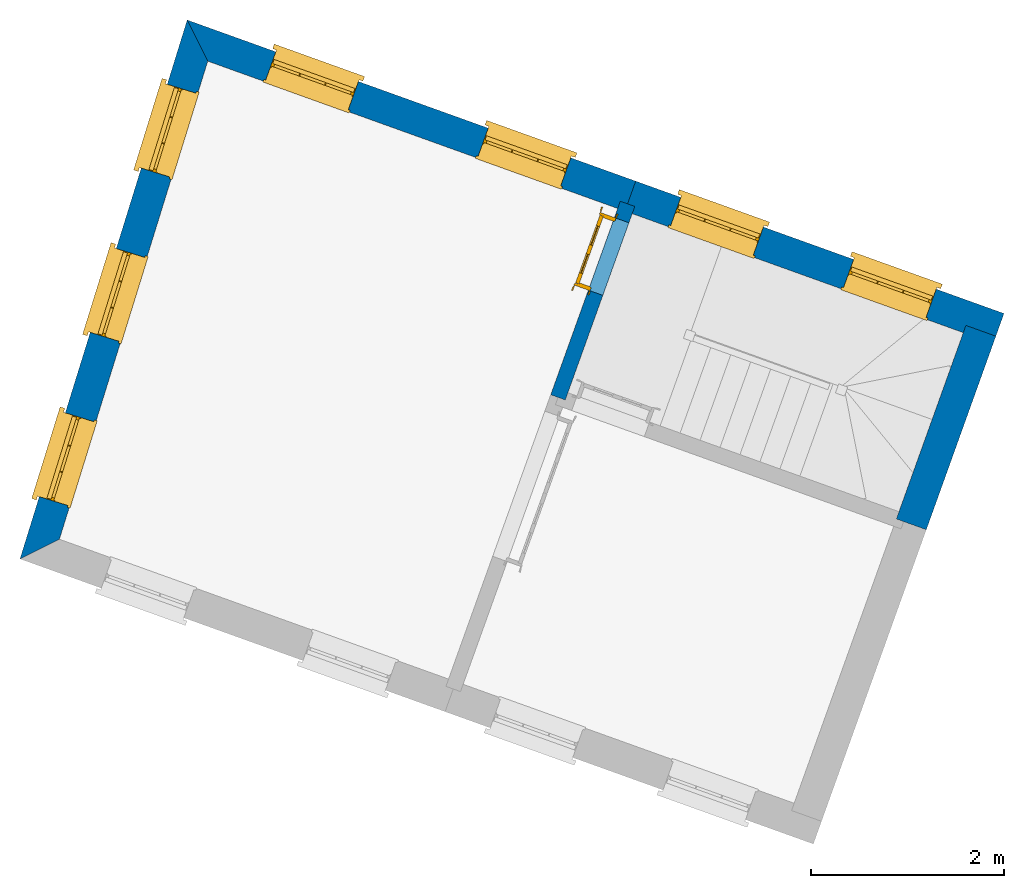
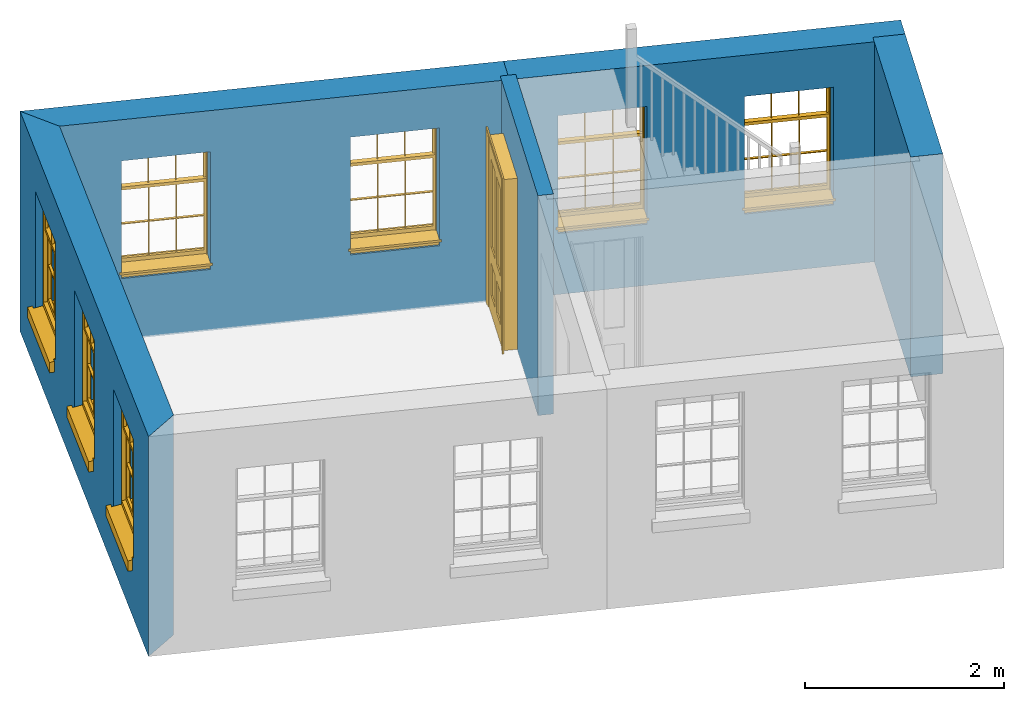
# One storey, part 3 of 4: 7 windows, 5 walls, 1 door, 8 openings.
"""IFC4 building model written with IfcOpenShell, lengths in metres."""

from ifc_helpers import new_model, si_unit, frame, origin, origin_with_axes, place, context, subcontext, project, spatial, polyline, outline, extrude, faceted_brep, source, transform, mapped, material, layer, layer_set, layer_usage, type_object, type_shapes, element, fill, save


model = new_model("IFC4")

# Units and contexts
model_context = context("Model", 3, world=origin_with_axes())
body_context = subcontext(model_context, "Body", "Model", "MODEL_VIEW")
ifc_project = project(units=[si_unit("PLANEANGLEUNIT", "RADIAN"), si_unit("MASSUNIT", "GRAM", prefix="KILO"), si_unit("FORCEUNIT", "NEWTON", prefix="KILO"), si_unit("LENGTHUNIT", "METRE"), si_unit("AREAUNIT", "SQUARE_METRE"), si_unit("VOLUMEUNIT", "CUBIC_METRE")], contexts=[model_context, model_context])

# Sites, building, storey
site_1_placement = place(None, origin_with_axes())
site_1 = spatial("IfcSite", under=ifc_project, at=site_1_placement, Name="Tamar")
site_2_placement = place(site_1_placement, origin_with_axes())
site_2 = spatial("IfcSite", under=site_1, at=site_2_placement, Name="Site plot-21", CompositionType="ELEMENT")
building_placement = place(None, origin_with_axes())
building = spatial("IfcBuilding", under=site_2, at=building_placement, Name="Building plot-21", CompositionType="ELEMENT")
storey_placement = place(None, frame((0.0, 0.0, 29.6), z_axis=(0.0, 0.0, 1.0), x_axis=(1.0, 0.0, 0.0)))
storey = spatial("IfcBuildingStorey", under=building, at=storey_placement, Name="plot-21 1", CompositionType="ELEMENT", Elevation=29.6)

# Wall, openings, windows
ifc_material_1 = material(Name="Masonry")
ifc_layer_1 = layer(ifc_material_1, 0.33, ventilated=False)
ifc_layer_set_1 = layer_set([ifc_layer_1], Name="exterior_0.08_0.25")
ifc_layer_usage_1 = layer_usage(ifc_layer_set_1, "AXIS2", "POSITIVE", -0.25)
wall_type_1 = type_object("IfcWallType", Name="exterior_0.08_0.25", PredefinedType="SOLIDWALL", material=ifc_layer_set_1)
wall_1_placement = place(storey_placement, frame((262.405675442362, 284.920063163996, 0.0), z_axis=(0.0, 0.0, 1.0), x_axis=(-0.941087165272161, 0.338164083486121, 0.0)))
wall_1 = element("IfcWall", 1, at=wall_1_placement, inside=storey, type_object=wall_type_1, material=ifc_layer_usage_1, Name="exterior", context=body_context, shape_type="SweptSolid", body=[
    extrude(outline(polyline([(-0.250000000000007, 0.079999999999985), (-0.250000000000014, -0.249999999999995), (3.80822589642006, -0.250000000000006), (3.80822589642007, 0.0799999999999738), (-0.250000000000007, 0.079999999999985)])), origin_with_axes(), (0.0, 0.0, 1.0), 2.7),
])
opening_1_placement = place(wall_1_placement, frame((0.49705647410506, 0.0, 0.75)))
opening_1 = element("IfcOpeningElement", 2, at=opening_1_placement, cuts=wall_1, Name="My Opening", ObjectType="Opening", context=body_context, shape_type="SweptSolid", body=[
    extrude(outline(polyline([(0.0, -0.270000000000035), (0.909999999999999, -0.269999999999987), (0.909999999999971, 1.10000000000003), (-2.80886425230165e-14, 1.09999999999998), (0.0, -0.270000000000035)])), origin_with_axes(), (0.0, 0.0, 1.0), 1.445),
])
opening_2_placement = place(wall_1_placement, frame((2.40116942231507, 0.0, 0.75)))
opening_2 = element("IfcOpeningElement", 3, at=opening_2_placement, cuts=wall_1, Name="My Opening", ObjectType="Opening", context=body_context, shape_type="SweptSolid", body=[
    extrude(outline(polyline([(0.0, -0.270000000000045), (0.909999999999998, -0.269999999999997), (0.90999999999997, 1.10000000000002), (-2.8421709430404e-14, 1.09999999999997), (0.0, -0.270000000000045)])), origin_with_axes(), (0.0, 0.0, 1.0), 1.445),
])
window_type = type_object("IfcWindowType", Name="sash_shorter", PartitioningType="DOUBLE_PANEL_HORIZONTAL", PredefinedType="NOTDEFINED")
shared_shape_1 = source(origin(), body_context, "Body", "Brep", [
    faceted_brep([(0.876875, 0.145, 0.999097), (0.876875, 0.145, 1.411875), (0.9, 0.145, 1.435), (0.033125, 0.145, 1.411875), (0.033125, 0.145, 0.999097), (0.01, 0.145, 1.435), (0.033125, 0.115, 1.411875), (0.01, 0.115, 1.435), (0.033125, 0.115, 0.999097), (0.876875, 0.115, 1.411875), (0.876875, 0.115, 0.999097), (0.9, 0.115, 1.435), (0.033125, 0.145, 0.960972), (0.01, 0.145, 0.960972), (0.033125, 0.145, 0.548195), (0.876875, 0.145, 0.960972), (0.876875, 0.145, 0.548195), (0.9, 0.145, 0.960972), (0.876875, 0.145, 0.538195), (0.876875, 0.145, 0.125417), (0.9, 0.145, 0.077167), (0.033125, 0.145, 0.125417), (0.033125, 0.145, 0.538195), (0.01, 0.145, 0.077167), (0.9, 0.115, 0.960972), (0.01, 0.115, 0.960972), (-0.0425, 0.0, 0.01), (-0.0425, -0.05, 0.001667), (0.0, 0.0, 0.01), (0.9525, 0.0, 0.01), (0.91, 0.0, 0.01), (0.9525, -0.05, 0.001667), (-0.02, 0.33, 0.077167), (0.0, 0.33, 0.077167), (-0.02, 0.36, 0.077167), (0.0, 0.19, 0.077167), (0.01, 0.19, 0.077167), (0.91, 0.19, 0.077167), (0.91, 0.33, 0.077167), (0.9, 0.19, 0.077167), (0.93, 0.33, 0.077167), (0.93, 0.36, 0.077167), (0.01, 0.145, 0.999097), (0.01, 0.175, 0.999097), (0.9, 0.145, 0.999097), (0.9, 0.175, 0.999097), (0.876875, 0.175, 0.125417), (0.876875, 0.175, 0.538195), (0.9, 0.175, 0.077167), (0.876875, 0.175, 0.548195), (0.876875, 0.175, 0.960972), (0.033125, 0.175, 0.125417), (0.01, 0.175, 0.077167), (0.033125, 0.175, 0.538195), (0.033125, 0.175, 0.960972), (0.033125, 0.175, 0.548195), (-0.02, 0.33, 0.052167), (-0.02, 0.36, 0.052167), (0.93, 0.36, 0.052167), (0.93, 0.33, 0.052167), (0.91, 0.33, 0.052167), (0.0, 0.33, 0.052167), (0.91, 0.1, 0.026667), (0.0, 0.1, 0.026667), (-0.0425, -0.05, -0.123333), (0.9525, -0.05, -0.123333), (-0.0425, 0.0, -0.123333), (0.9525, 0.0, -0.123333), (0.01, 0.19, 1.435), (0.9, 0.19, 1.435), (0.0, 0.19, 1.445), (0.91, 0.19, 1.445), (0.01, 0.1, 0.077167), (0.9, 0.1, 0.077167), (0.592292, 0.145, 0.125417), (0.592292, 0.175, 0.125417), (0.317708, 0.175, 0.125417), (0.317708, 0.145, 0.125417), (0.592292, 0.145, 0.548195), (0.317708, 0.145, 0.548195), (0.317708, 0.145, 0.538195), (0.592292, 0.145, 0.538195), (0.592292, 0.175, 0.548195), (0.317708, 0.175, 0.548195), (0.602292, 0.175, 0.548195), (0.602292, 0.145, 0.548195), (0.317708, 0.175, 0.538195), (0.307708, 0.175, 0.125417), (0.307708, 0.175, 0.538195), (0.602292, 0.175, 0.538195), (0.602292, 0.175, 0.125417), (0.592292, 0.175, 0.538195), (0.307708, 0.175, 0.548195), (0.317708, 0.175, 0.960972), (0.307708, 0.175, 0.960972), (0.602292, 0.175, 0.960972), (0.592292, 0.175, 0.960972), (0.307708, 0.145, 0.538195), (0.307708, 0.145, 0.125417), (0.307708, 0.145, 0.548195), (0.307708, 0.145, 0.960972), (0.592292, 0.145, 0.960972), (0.317708, 0.145, 0.960972), (0.602292, 0.145, 0.960972), (0.602292, 0.145, 0.538195), (0.602292, 0.145, 0.125417), (0.317708, 0.115, 1.411875), (0.307708, 0.115, 1.411875), (0.307708, 0.115, 0.999097), (0.317708, 0.115, 0.999097), (0.602292, 0.115, 1.411875), (0.592292, 0.115, 1.411875), (0.592292, 0.115, 0.999097), (0.602292, 0.115, 0.999097), (0.317708, 0.145, 0.999097), (0.307708, 0.145, 0.999097), (0.307708, 0.145, 1.411875), (0.317708, 0.145, 1.411875), (0.602292, 0.145, 0.999097), (0.592292, 0.145, 0.999097), (0.592292, 0.145, 1.411875), (0.602292, 0.145, 1.411875), (0.91, 0.1, 1.445), (0.9, 0.1, 1.435), (0.01, 0.1, 1.435), (0.0, 0.1, 1.445), (0.91, 0.0, 0.0), (0.0, 0.0, 0.0), (0.91, 0.33, 0.0), (0.0, 0.33, 0.0)], [[[0, 1, 2]], [[3, 4, 5]], [[6, 7, 8]], [[9, 10, 11]], [[12, 13, 14]], [[15, 16, 17]], [[18, 19, 20]], [[21, 22, 23]], [[24, 15, 17]], [[13, 12, 25]], [[26, 27, 28]], [[29, 30, 31]], [[32, 33, 34]], [[35, 36, 33]], [[37, 38, 39]], [[40, 41, 38]], [[42, 4, 43]], [[44, 45, 0]], [[46, 47, 48]], [[49, 50, 45]], [[51, 52, 53]], [[54, 55, 43]], [[38, 33, 36, 39]], [[41, 34, 33, 38]], [[56, 32, 34, 57]], [[57, 34, 41, 58]], [[58, 41, 40, 59]], [[57, 58, 60, 61]], [[52, 48, 39, 36]], [[62, 63, 28, 30]], [[27, 31, 30, 28]], [[27, 64, 65, 31]], [[66, 67, 65, 64]], [[2, 5, 68, 69]], [[68, 70, 71, 69]], [[20, 23, 72, 73]], [[73, 72, 63, 62]], [[74, 75, 76, 77]], [[78, 79, 80, 81]], [[78, 82, 83, 79]], [[16, 49, 84, 85]], [[86, 76, 87, 88]], [[89, 90, 75, 91]], [[92, 88, 53, 55]], [[82, 91, 86, 83]], [[93, 83, 92, 94]], [[95, 84, 82, 96]], [[89, 84, 49, 47]], [[97, 88, 87, 98]], [[22, 53, 88, 97]], [[81, 91, 75, 74]], [[80, 86, 91, 81]], [[77, 76, 86, 80]], [[99, 92, 55, 14]], [[100, 94, 92, 99]], [[101, 96, 82, 78]], [[79, 83, 93, 102]], [[85, 84, 95, 103]], [[104, 89, 47, 18]], [[105, 90, 89, 104]], [[104, 18, 16, 85]], [[80, 97, 98, 77]], [[104, 81, 74, 105]], [[103, 101, 78, 85]], [[99, 14, 22, 97]], [[102, 100, 99, 79]], [[106, 107, 108, 109]], [[110, 111, 112, 113]], [[114, 115, 116, 117]], [[118, 119, 120, 121]], [[107, 116, 115, 108]], [[111, 120, 119, 112]], [[109, 114, 117, 106]], [[113, 118, 121, 110]], [[85, 78, 81, 104]], [[84, 89, 91, 82]], [[83, 86, 88, 92]], [[79, 99, 97, 80]], [[109, 112, 119, 114]], [[102, 93, 96, 101]], [[106, 117, 120, 111]], [[98, 87, 51, 21]], [[6, 3, 116, 107]], [[110, 121, 1, 9]], [[19, 46, 90, 105]], [[26, 66, 64, 27]], [[29, 31, 65, 67]], [[25, 24, 112, 109]], [[11, 7, 106, 111]], [[75, 48, 52, 76]], [[43, 45, 96, 93]], [[45, 43, 114, 119]], [[5, 2, 120, 117]], [[24, 25, 102, 101]], [[42, 5, 4]], [[2, 44, 0]], [[49, 45, 48, 47]], [[52, 43, 55, 53]], [[14, 13, 23, 22]], [[20, 17, 16, 18]], [[24, 11, 10]], [[25, 8, 7]], [[8, 4, 3, 6]], [[9, 1, 0, 10]], [[15, 50, 49, 16]], [[18, 47, 46, 19]], [[21, 51, 53, 22]], [[14, 55, 54, 12]], [[44, 2, 69, 45]], [[68, 5, 42, 43]], [[36, 35, 70, 68]], [[39, 69, 71, 37]], [[62, 122, 123, 73]], [[63, 72, 124, 125]], [[8, 108, 115, 4]], [[113, 10, 0, 118]], [[94, 100, 12, 54]], [[17, 20, 73, 24]], [[72, 23, 13, 25]], [[52, 36, 68, 43]], [[69, 39, 48, 45]], [[11, 24, 73, 123]], [[7, 124, 72, 25]], [[23, 77, 98]], [[98, 21, 23]], [[105, 74, 20]], [[20, 19, 105]], [[20, 74, 77, 23]], [[113, 112, 24]], [[24, 10, 113]], [[25, 109, 108]], [[108, 8, 25]], [[110, 9, 11]], [[11, 111, 110]], [[7, 6, 107]], [[107, 106, 7]], [[5, 117, 116]], [[116, 3, 5]], [[121, 120, 2]], [[2, 1, 121]], [[11, 123, 124, 7]], [[122, 125, 124, 123]], [[43, 93, 94]], [[94, 54, 43]], [[96, 45, 95]], [[50, 95, 45]], [[15, 103, 95, 50]], [[48, 75, 90]], [[90, 46, 48]], [[87, 76, 52]], [[52, 51, 87]], [[103, 15, 24]], [[24, 101, 103]], [[100, 102, 25]], [[25, 12, 100]], [[115, 114, 43]], [[43, 4, 115]], [[118, 0, 45]], [[45, 119, 118]], [[71, 70, 125, 122]], [[70, 35, 63, 125]], [[122, 62, 37, 71]], [[126, 67, 66, 127]], [[60, 58, 59]], [[38, 60, 59, 40]], [[61, 56, 57]], [[32, 56, 61, 33]], [[61, 60, 128, 129]], [[62, 60, 38, 37]], [[126, 128, 60, 62]], [[33, 61, 63, 35]], [[61, 129, 127, 63]], [[128, 126, 127, 129]], [[28, 127, 66, 26]], [[63, 127, 28]], [[29, 67, 126, 30]], [[30, 126, 62]]]),
])
type_shapes(window_type, [shared_shape_1])
window_1_placement = place(storey_placement, frame((262.029206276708, 285.342243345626, 0.75), z_axis=(0.0, 0.0, 1.0), x_axis=(-0.856389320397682, 0.307729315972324, 0.0)))
window_1 = element("IfcWindow", 4, at=window_1_placement, inside=storey, type_object=window_type, Name="circulation outside window", OverallHeight=1.445, OverallWidth=0.91, context=body_context, shape_type="MappedRepresentation", body=[
    mapped(shared_shape_1, transform((0.0, 0.0, 0.0), scale=1.0)),
])
fill(opening_1, window_1)
window_2_placement = place(storey_placement, frame((260.237270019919, 285.986145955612, 0.75), z_axis=(0.0, 0.0, 1.0), x_axis=(-0.856389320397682, 0.307729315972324, 0.0)))
window_2 = element("IfcWindow", 5, at=window_2_placement, inside=storey, type_object=window_type, Name="circulation outside window", OverallHeight=1.445, OverallWidth=0.91, context=body_context, shape_type="MappedRepresentation", body=[
    mapped(shared_shape_1, transform((0.0, 0.0, 0.0), scale=1.0)),
])
fill(opening_2, window_2)

wall_2_placement = place(storey_placement, frame((258.821802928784, 286.207868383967, 0.0), z_axis=(0.0, 0.0, 1.0), x_axis=(-0.941087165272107, 0.338164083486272, 0.0)))
wall_2 = element("IfcWall", 6, at=wall_2_placement, inside=storey, type_object=wall_type_1, material=ifc_layer_usage_1, Name="exterior", context=body_context, shape_type="SweptSolid", body=[
    extrude(outline(polyline([(-1.49520260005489e-14, 0.0799999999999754), (3.07684858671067e-14, -0.250000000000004), (4.94177410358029, -0.250000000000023), (4.59689375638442, 0.0799999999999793), (-1.49520260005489e-14, 0.0799999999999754)])), origin_with_axes(), (0.0, 0.0, 1.0), 2.7),
])
opening_3_placement = place(wall_2_placement, frame((0.715125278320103, 0.0, 0.75)))
opening_3 = element("IfcOpeningElement", 7, at=opening_3_placement, cuts=wall_2, Name="My Opening", ObjectType="Opening", context=body_context, shape_type="SweptSolid", body=[
    extrude(outline(polyline([(0.0, -0.269999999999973), (0.910000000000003, -0.269999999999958), (0.910000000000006, 1.10000000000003), (3.21964677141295e-15, 1.10000000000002), (0.0, -0.269999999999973)])), origin_with_axes(), (0.0, 0.0, 1.0), 1.445),
])
opening_4_placement = place(wall_2_placement, frame((3.05537583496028, 0.0, 0.75)))
opening_4 = element("IfcOpeningElement", 8, at=opening_4_placement, cuts=wall_2, Name="My Opening", ObjectType="Opening", context=body_context, shape_type="SweptSolid", body=[
    extrude(outline(polyline([(0.0, -0.270000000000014), (0.91000000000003, -0.26999999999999), (0.910000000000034, 1.1), (3.06421554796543e-14, 1.09999999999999), (0.0, -0.270000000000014)])), origin_with_axes(), (0.0, 0.0, 1.0), 1.445),
])
window_3_placement = place(storey_placement, frame((258.240112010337, 286.703791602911, 0.75), z_axis=(0.0, 0.0, 1.0), x_axis=(-0.856389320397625, 0.307729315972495, 0.0)))
window_3 = element("IfcWindow", 9, at=window_3_placement, inside=storey, type_object=window_type, Name="living outside window", OverallHeight=1.445, OverallWidth=0.91, context=body_context, shape_type="MappedRepresentation", body=[
    mapped(shared_shape_1, transform((0.0, 0.0, 0.0), scale=1.0)),
])
fill(opening_3, window_3)
window_4_placement = place(storey_placement, frame((256.037732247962, 287.495180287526, 0.75), z_axis=(0.0, 0.0, 1.0), x_axis=(-0.856389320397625, 0.307729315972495, 0.0)))
window_4 = element("IfcWindow", 10, at=window_4_placement, inside=storey, type_object=window_type, Name="living outside window", OverallHeight=1.445, OverallWidth=0.91, context=body_context, shape_type="MappedRepresentation", body=[
    mapped(shared_shape_1, transform((0.0, 0.0, 0.0), scale=1.0)),
])
fill(opening_4, window_4)

wall_3_placement = place(storey_placement, frame((254.417043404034, 287.790645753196, 0.0), z_axis=(0.0, 0.0, 1.0), x_axis=(-0.296355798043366, -0.955077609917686, 0.0)))
wall_3 = element("IfcWall", 11, at=wall_3_placement, inside=storey, type_object=wall_type_1, material=ifc_layer_usage_1, Name="exterior", context=body_context, shape_type="SweptSolid", body=[
    extrude(outline(polyline([(0.0836073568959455, 0.0800000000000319), (-0.261272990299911, -0.249999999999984), (5.58998192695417, -0.250000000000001), (5.27422024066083, 0.0800000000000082), (0.0836073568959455, 0.0800000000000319)])), origin_with_axes(), (0.0, 0.0, 1.0), 2.7),
])
opening_5_placement = place(wall_3_placement, frame((0.436794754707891, 0.0, 0.75)))
opening_5 = element("IfcOpeningElement", 12, at=opening_5_placement, cuts=wall_3, Name="My Opening", ObjectType="Opening", context=body_context, shape_type="SweptSolid", body=[
    extrude(outline(polyline([(0.0, -0.269999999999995), (0.909999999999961, -0.26999999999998), (0.909999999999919, 1.10000000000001), (-4.18554080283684e-14, 1.09999999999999), (0.0, -0.269999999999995)])), origin_with_axes(), (0.0, 0.0, 1.0), 1.445),
])
opening_6_placement = place(wall_3_placement, frame((2.22038426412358, 0.0, 0.75)))
opening_6 = element("IfcOpeningElement", 13, at=opening_6_placement, cuts=wall_3, Name="My Opening", ObjectType="Opening", context=body_context, shape_type="SweptSolid", body=[
    extrude(outline(polyline([(0.0, -0.269999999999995), (0.909999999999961, -0.269999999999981), (0.909999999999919, 1.10000000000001), (-4.17443857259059e-14, 1.09999999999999), (0.0, -0.269999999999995)])), origin_with_axes(), (0.0, 0.0, 1.0), 1.445),
])
opening_7_placement = place(wall_3_placement, frame((4.00397377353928, 0.0, 0.75)))
opening_7 = element("IfcOpeningElement", 14, at=opening_7_placement, cuts=wall_3, Name="My Opening", ObjectType="Opening", context=body_context, shape_type="SweptSolid", body=[
    extrude(outline(polyline([(0.0, -0.269999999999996), (0.909999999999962, -0.269999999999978), (0.909999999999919, 1.10000000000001), (-4.08562073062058e-14, 1.09999999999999), (0.0, -0.269999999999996)])), origin_with_axes(), (0.0, 0.0, 1.0), 1.445),
])
window_5_placement = place(storey_placement, frame((254.029725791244, 287.453488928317, 0.75), z_axis=(0.0, 0.0, 1.0), x_axis=(-0.269683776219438, -0.869120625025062, 0.0)))
window_5 = element("IfcWindow", 15, at=window_5_placement, inside=storey, type_object=window_type, Name="living outside window", OverallHeight=1.445, OverallWidth=0.91, context=body_context, shape_type="MappedRepresentation", body=[
    mapped(shared_shape_1, transform((0.0, 0.0, 0.0), scale=1.0)),
])
fill(opening_5, window_5)
window_6_placement = place(storey_placement, frame((253.501148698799, 285.75002252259, 0.75), z_axis=(0.0, 0.0, 1.0), x_axis=(-0.269683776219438, -0.869120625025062, 0.0)))
window_6 = element("IfcWindow", 16, at=window_6_placement, inside=storey, type_object=window_type, Name="living outside window", OverallHeight=1.445, OverallWidth=0.91, context=body_context, shape_type="MappedRepresentation", body=[
    mapped(shared_shape_1, transform((0.0, 0.0, 0.0), scale=1.0)),
])
fill(opening_6, window_6)
window_7_placement = place(storey_placement, frame((252.972571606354, 284.046556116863, 0.75), z_axis=(0.0, 0.0, 1.0), x_axis=(-0.269683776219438, -0.869120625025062, 0.0)))
window_7 = element("IfcWindow", 17, at=window_7_placement, inside=storey, type_object=window_type, Name="living outside window", OverallHeight=1.445, OverallWidth=0.91, context=body_context, shape_type="MappedRepresentation", body=[
    mapped(shared_shape_1, transform((0.0, 0.0, 0.0), scale=1.0)),
])
fill(opening_7, window_7)

# Wall
ifc_material_2 = material(Name="Masonry")
ifc_layer_2 = layer(ifc_material_2, 0.33, ventilated=False)
ifc_layer_set_2 = layer_set([ifc_layer_2], Name="party_0.08_0.25")
ifc_layer_usage_2 = layer_usage(ifc_layer_set_2, "AXIS2", "POSITIVE", -0.25)
wall_type_2 = type_object("IfcWallType", Name="party_0.08_0.25", PredefinedType="SOLIDWALL", material=ifc_layer_set_2)
wall_4_placement = place(storey_placement, frame((261.684463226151, 282.912979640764, 0.0), z_axis=(0.0, 0.0, 1.0), x_axis=(0.338164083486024, 0.941087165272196, 0.0)))
element("IfcWall", 18, at=wall_4_placement, inside=storey, type_object=wall_type_2, material=ifc_layer_usage_2, Name="party", context=body_context, shape_type="SweptSolid", body=[
    extrude(outline(polyline([(6.18662038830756e-15, 0.0799999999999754), (1.81119433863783e-14, -0.249999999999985), (2.1327286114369, -0.249999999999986), (2.13272861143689, 0.0799999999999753), (6.18662038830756e-15, 0.0799999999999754)])), origin_with_axes(), (0.0, 0.0, 1.0), 2.7),
])

# Wall, opening, door
ifc_material_3 = material(Name="Masonry")
ifc_layer_3 = layer(ifc_material_3, 0.16, ventilated=False)
ifc_layer_set_3 = layer_set([ifc_layer_3], Name="interior_0.08_0.08")
ifc_layer_usage_3 = layer_usage(ifc_layer_set_3, "AXIS2", "POSITIVE", -0.08)
wall_type_3 = type_object("IfcWallType", Name="interior_0.08_0.08", PredefinedType="SOLIDWALL", material=ifc_layer_set_3)
wall_5_placement = place(storey_placement, frame((258.100590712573, 284.200784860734, 0.0), z_axis=(0.0, 0.0, 1.0), x_axis=(0.338164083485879, 0.941087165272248, 0.0)))
wall_5 = element("IfcWall", 19, at=wall_5_placement, inside=storey, type_object=wall_type_3, material=ifc_layer_usage_3, Name="interior", context=body_context, shape_type="SweptSolid", body=[
    extrude(outline(polyline([(-7.76698422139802e-16, 0.0800000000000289), (7.86495596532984e-16, -0.0800000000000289), (2.13272861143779, -0.0800000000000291), (2.13272861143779, 0.0800000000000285), (-7.76698422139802e-16, 0.0800000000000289)])), origin_with_axes(), (0.0, 0.0, 1.0), 2.7),
])
opening_8_placement = place(wall_5_placement, frame((1.15272861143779, 0.0, 0.0199999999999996)))
opening_8 = element("IfcOpeningElement", 20, at=opening_8_placement, cuts=wall_5, Name="My Opening", ObjectType="Opening", context=body_context, shape_type="SweptSolid", body=[
    extrude(outline(polyline([(0.0, -0.0999999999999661), (0.800000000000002, -0.100000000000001), (0.799999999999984, 1.09999999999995), (-1.86517468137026e-14, 1.09999999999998), (0.0, -0.0999999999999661)])), origin_with_axes(), (0.0, 0.0, 1.0), 2.1),
])
door_type = type_object("IfcDoorType", Name="door_inside", OperationType="SINGLE_SWING_LEFT", PredefinedType="NOTDEFINED")
shared_shape_2 = source(origin(), body_context, "Body", "Brep", [
    faceted_brep([(0.773, 0.33, 1.895), (0.66, 0.33, 1.895), (0.66, 0.33, 2.073), (0.773, 0.33, 2.073), (0.773, 0.33, 0.82), (0.66, 0.33, 0.82), (0.45, 0.33, 1.895), (0.45, 0.33, 2.073), (0.773, 0.33, 0.62), (0.66, 0.33, 0.62), (0.66, 0.315, 0.82), (0.66, 0.315, 1.895), (0.45, 0.315, 1.895), (0.35, 0.33, 1.895), (0.35, 0.33, 2.073), (0.773, 0.33, 0.225), (0.66, 0.33, 0.225), (0.45, 0.33, 0.62), (0.45, 0.33, 0.82), (0.45, 0.315, 0.82), (0.35, 0.33, 0.82), (0.14, 0.33, 2.073), (0.14, 0.33, 1.895), (0.773, 0.33, 0.0), (0.66, 0.33, 0.0), (0.66, 0.315, 0.225), (0.66, 0.315, 0.62), (0.45, 0.315, 0.62), (0.35, 0.33, 0.62), (0.35, 0.315, 0.82), (0.35, 0.315, 1.895), (0.14, 0.315, 1.895), (0.027, 0.33, 2.073), (0.027, 0.33, 1.895), (0.773, 0.292, 0.0), (0.66, 0.292, 0.0), (0.45, 0.33, 0.0), (0.45, 0.33, 0.225), (0.45, 0.315, 0.225), (0.35, 0.33, 0.225), (0.14, 0.33, 0.82), (0.14, 0.33, 0.62), (0.14, 0.315, 0.82), (0.027, 0.33, 0.82), (0.773, 0.292, 0.225), (0.66, 0.292, 0.225), (0.45, 0.292, 0.0), (0.35, 0.33, 0.0), (0.35, 0.315, 0.225), (0.35, 0.315, 0.62), (0.14, 0.315, 0.62), (0.027, 0.33, 0.62), (0.773, 0.292, 0.62), (0.66, 0.292, 0.62), (0.45, 0.292, 0.225), (0.35, 0.292, 0.0), (0.14, 0.33, 0.225), (0.14, 0.33, 0.0), (0.14, 0.315, 0.225), (0.027, 0.33, 0.225), (0.773, 0.292, 0.82), (0.66, 0.292, 0.82), (0.66, 0.307, 0.62), (0.66, 0.307, 0.225), (0.45, 0.307, 0.225), (0.35, 0.292, 0.225), (0.14, 0.292, 0.0), (0.027, 0.33, 0.0), (0.773, 0.292, 1.895), (0.66, 0.292, 1.895), (0.45, 0.292, 0.62), (0.45, 0.292, 0.82), (0.45, 0.307, 0.62), (0.35, 0.292, 0.62), (0.14, 0.292, 0.225), (0.027, 0.292, 0.0), (0.773, 0.292, 2.073), (0.66, 0.292, 2.073), (0.66, 0.307, 1.895), (0.66, 0.307, 0.82), (0.45, 0.307, 0.82), (0.35, 0.292, 0.82), (0.35, 0.307, 0.62), (0.35, 0.307, 0.225), (0.14, 0.307, 0.225), (0.027, 0.292, 0.225), (0.45, 0.292, 1.895), (0.45, 0.292, 2.073), (0.45, 0.307, 1.895), (0.35, 0.292, 1.895), (0.14, 0.292, 0.82), (0.14, 0.292, 0.62), (0.14, 0.307, 0.62), (0.027, 0.292, 0.62), (0.35, 0.292, 2.073), (0.35, 0.307, 1.895), (0.35, 0.307, 0.82), (0.14, 0.307, 0.82), (0.027, 0.292, 0.82), (0.14, 0.292, 2.073), (0.14, 0.292, 1.895), (0.14, 0.307, 1.895), (0.027, 0.292, 1.895), (0.027, 0.292, 2.073), (0.02, 0.335, 0.0), (0.005, 0.34, 0.0), (0.005, 0.34, 2.095), (0.02, 0.335, 2.08), (0.02, 0.33, 0.0), (0.0, 0.335, 0.0), (0.0, 0.335, 2.1), (0.795, 0.34, 2.095), (0.78, 0.335, 2.08), (0.02, 0.33, 2.08), (0.0, 0.33, 0.0), (-0.032, 0.345, 0.0), (-0.032, 0.345, 2.132), (0.8, 0.335, 2.1), (0.795, 0.34, 0.0), (0.78, 0.335, 0.0), (0.78, 0.33, 2.08), (0.04, 0.29, 0.0), (0.025, 0.29, 0.0), (0.025, 0.29, 2.075), (0.04, 0.29, 2.06), (-0.04, 0.34, 0.0), (-0.04, 0.34, 2.14), (0.832, 0.345, 2.132), (0.8, 0.335, 0.0), (0.78, 0.33, 0.0), (0.8, 0.33, 0.0), (0.86, 0.33, 0.0), (0.86, 0.33, 2.16), (0.8, 0.33, 2.1), (-0.06, 0.33, 2.16), (0.0, 0.33, 2.1), (-0.06, 0.33, 0.0), (-0.04, 0.345, 0.0), (-0.04, 0.345, 2.14), (0.84, 0.34, 2.14), (0.832, 0.345, 0.0), (0.84, 0.34, 0.0), (0.86, 0.345, 0.0), (0.86, 0.345, 2.16), (-0.06, 0.345, 2.16), (-0.06, 0.345, 0.0), (0.84, 0.345, 0.0), (0.84, 0.345, 2.14), (-0.025, 0.155, 0.0), (-0.025, 0.16, 0.0), (-0.025, 0.16, 2.125), (-0.025, 0.155, 2.125), (-0.017, 0.155, 0.0), (-0.017, 0.155, 2.117), (0.825, 0.16, 2.125), (0.825, 0.155, 2.125), (0.825, 0.155, 0.0), (0.845, 0.155, 0.0), (-0.045, 0.155, 2.145), (-0.045, 0.155, 0.0), (0.845, 0.155, 2.145), (0.015, 0.165, 0.0), (0.015, 0.165, 2.085), (0.817, 0.155, 2.117), (0.825, 0.16, 0.0), (0.845, 0.17, 0.0), (0.845, 0.17, 2.145), (-0.045, 0.17, 2.145), (-0.045, 0.17, 0.0), (0.02, 0.16, 0.0), (0.02, 0.16, 2.08), (0.785, 0.165, 2.085), (0.817, 0.155, 0.0), (0.8, 0.17, 0.0), (0.8, 0.17, 2.1), (0.0, 0.17, 2.1), (0.0, 0.17, 0.0), (0.035, 0.165, 0.0), (0.035, 0.165, 2.065), (0.78, 0.16, 2.08), (0.785, 0.165, 0.0), (0.775, 0.29, 2.075), (0.76, 0.29, 2.06), (0.035, 0.17, 2.065), (0.035, 0.17, 0.0), (0.765, 0.165, 2.065), (0.78, 0.16, 0.0), (0.765, 0.17, 0.0), (0.765, 0.17, 2.065), (0.765, 0.165, 0.0), (0.04, 0.17, 2.06), (0.04, 0.17, 0.0), (0.76, 0.17, 2.06), (0.76, 0.17, 0.0), (0.76, 0.29, 0.0), (0.775, 0.29, 0.0), (0.025, 0.33, 0.0), (0.025, 0.33, 2.075), (0.775, 0.33, 0.0), (0.775, 0.33, 2.075)], [[[0, 1, 2, 3]], [[1, 0, 4, 5]], [[1, 6, 7, 2]], [[8, 9, 5, 4]], [[1, 5, 10, 11]], [[6, 1, 11, 12]], [[6, 13, 14, 7]], [[15, 16, 9, 8]], [[9, 17, 18, 5]], [[5, 18, 19, 10]], [[10, 19, 12, 11]], [[18, 6, 12, 19]], [[18, 20, 13, 6]], [[21, 14, 13, 22]], [[23, 24, 16, 15]], [[9, 16, 25, 26]], [[17, 9, 26, 27]], [[17, 28, 20, 18]], [[13, 20, 29, 30]], [[22, 13, 30, 31]], [[32, 21, 22, 33]], [[34, 35, 24, 23]], [[24, 36, 37, 16]], [[16, 37, 38, 25]], [[25, 38, 27, 26]], [[37, 17, 27, 38]], [[37, 39, 28, 17]], [[40, 20, 28, 41]], [[20, 40, 42, 29]], [[31, 30, 29, 42]], [[40, 22, 31, 42]], [[33, 22, 40, 43]], [[35, 34, 44, 45]], [[35, 46, 36, 24]], [[36, 47, 39, 37]], [[28, 39, 48, 49]], [[41, 28, 49, 50]], [[43, 40, 41, 51]], [[45, 44, 52, 53]], [[46, 35, 45, 54]], [[46, 55, 47, 36]], [[56, 39, 47, 57]], [[39, 56, 58, 48]], [[50, 49, 48, 58]], [[56, 41, 50, 58]], [[51, 41, 56, 59]], [[53, 52, 60, 61]], [[45, 53, 62, 63]], [[54, 45, 63, 64]], [[55, 46, 54, 65]], [[55, 66, 57, 47]], [[59, 56, 57, 67]], [[61, 60, 68, 69]], [[70, 53, 61, 71]], [[53, 70, 72, 62]], [[72, 64, 63, 62]], [[70, 54, 64, 72]], [[65, 54, 70, 73]], [[65, 74, 66, 55]], [[67, 57, 66, 75]], [[69, 68, 76, 77]], [[61, 69, 78, 79]], [[71, 61, 79, 80]], [[73, 70, 71, 81]], [[65, 73, 82, 83]], [[74, 65, 83, 84]], [[74, 85, 75, 66]], [[86, 69, 77, 87]], [[69, 86, 88, 78]], [[88, 80, 79, 78]], [[86, 71, 80, 88]], [[81, 71, 86, 89]], [[73, 81, 90, 91]], [[73, 91, 92, 82]], [[83, 82, 92, 84]], [[91, 74, 84, 92]], [[91, 93, 85, 74]], [[89, 86, 87, 94]], [[81, 89, 95, 96]], [[90, 81, 96, 97]], [[90, 98, 93, 91]], [[94, 99, 100, 89]], [[89, 100, 101, 95]], [[101, 97, 96, 95]], [[100, 90, 97, 101]], [[100, 102, 98, 90]], [[99, 103, 102, 100]], [[32, 103, 99, 21]], [[102, 103, 32, 33]], [[98, 102, 33, 43]], [[21, 99, 94, 14]], [[94, 87, 7, 14]], [[7, 87, 77, 2]], [[76, 3, 2, 77]], [[43, 51, 93, 98]], [[51, 59, 85, 93]], [[67, 75, 85, 59]], [[34, 23, 15, 44]], [[44, 15, 8, 52]], [[52, 8, 4, 60]], [[0, 68, 60, 4]], [[0, 3, 76, 68]], [[104, 105, 106, 107]], [[104, 108, 109, 105]], [[105, 109, 110, 106]], [[107, 106, 111, 112]], [[107, 113, 108, 104]], [[114, 109, 108]], [[109, 115, 116, 110]], [[106, 110, 117, 111]], [[112, 111, 118, 119]], [[113, 107, 112, 120]], [[121, 122, 123, 124]], [[115, 109, 114, 125]], [[115, 125, 126, 116]], [[110, 116, 127, 117]], [[111, 117, 128, 118]], [[118, 128, 129, 119]], [[120, 112, 119, 129]], [[130, 129, 128]], [[130, 131, 132, 133]], [[133, 132, 134, 135]], [[135, 134, 136, 114]], [[136, 125, 114]], [[125, 137, 138, 126]], [[116, 126, 139, 127]], [[117, 127, 140, 128]], [[141, 130, 128, 140]], [[131, 130, 141]], [[131, 142, 143, 132]], [[132, 143, 144, 134]], [[134, 144, 145, 136]], [[137, 125, 136, 145]], [[143, 142, 146]], [[143, 146, 147]], [[137, 145, 144]], [[143, 147, 138]], [[138, 137, 144]], [[143, 138, 144]], [[126, 138, 147, 139]], [[127, 139, 141, 140]], [[142, 131, 141, 146]], [[139, 147, 146, 141]], [[148, 149, 150, 151]], [[149, 152, 153, 150]], [[151, 150, 154, 155]], [[155, 156, 157]], [[158, 159, 148]], [[158, 148, 151]], [[155, 157, 160]], [[158, 151, 155]], [[155, 160, 158]], [[152, 161, 162, 153]], [[150, 153, 163, 154]], [[155, 154, 164, 156]], [[156, 164, 165, 157]], [[157, 165, 166, 160]], [[160, 166, 167, 158]], [[158, 167, 168, 159]], [[161, 169, 170, 162]], [[153, 162, 171, 163]], [[154, 163, 172, 164]], [[165, 164, 173]], [[165, 173, 174, 166]], [[166, 174, 175, 167]], [[167, 175, 176, 168]], [[169, 177, 178, 170]], [[162, 170, 179, 171]], [[163, 171, 180, 172]], [[172, 180, 173, 164]], [[124, 123, 181, 182]], [[183, 178, 177, 184]], [[170, 178, 185, 179]], [[171, 179, 186, 180]], [[187, 173, 180]], [[185, 188, 187, 189]], [[188, 185, 178, 183]], [[179, 185, 189, 186]], [[189, 187, 180, 186]], [[190, 183, 184, 191]], [[192, 188, 183, 190]], [[191, 184, 122, 121]], [[124, 190, 191, 121]], [[193, 187, 188, 192]], [[182, 192, 190, 124]], [[184, 176, 122]], [[194, 195, 187, 193]], [[192, 182, 194, 193]], [[161, 176, 184]], [[114, 108, 122, 176]], [[173, 187, 195]], [[152, 149, 176, 161]], [[169, 161, 184, 177]], [[196, 122, 108]], [[176, 175, 135, 114]], [[173, 195, 129, 130]], [[176, 149, 168]], [[123, 122, 196, 197]], [[196, 108, 113, 197]], [[175, 174, 133, 135]], [[198, 129, 195]], [[133, 174, 173, 130]], [[159, 168, 149, 148]], [[181, 123, 197, 199]], [[197, 113, 120, 199]], [[199, 120, 129, 198]], [[195, 181, 199, 198]], [[195, 194, 182, 181]]]),
])
type_shapes(door_type, [shared_shape_2])
door_placement = place(storey_placement, frame((258.584510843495, 285.251786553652, 0.0199999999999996), z_axis=(0.0, 0.0, 1.0), x_axis=(0.270531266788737, 0.752869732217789, 0.0)))
door = element("IfcDoor", 21, at=door_placement, inside=storey, type_object=door_type, Name="living inside door", OverallHeight=2.1, OverallWidth=0.8, context=body_context, shape_type="MappedRepresentation", body=[
    mapped(shared_shape_2, transform((0.0, 0.0, 0.0), scale=1.0)),
])
fill(opening_8, door)

save(model, "model.ifc")
